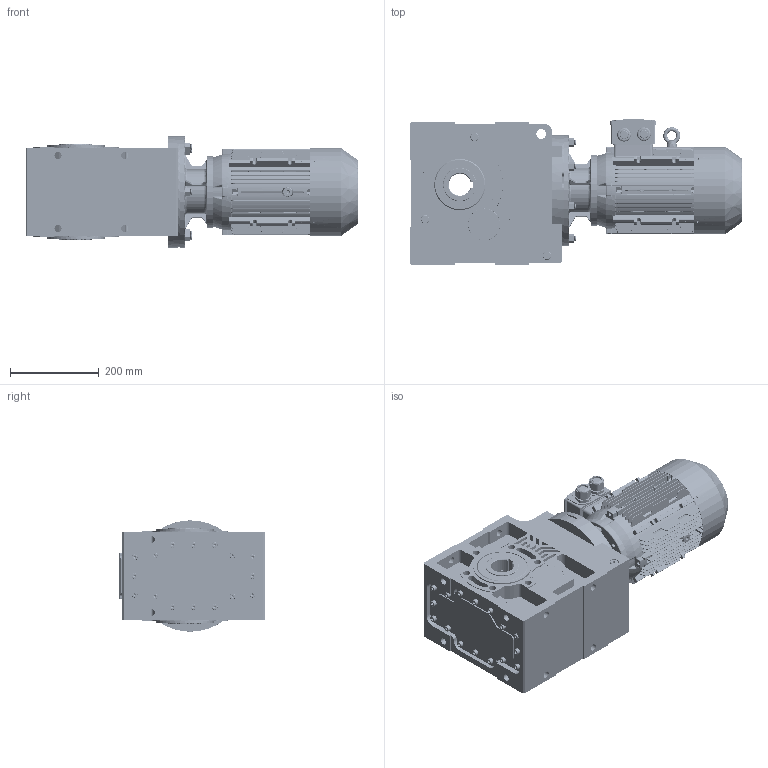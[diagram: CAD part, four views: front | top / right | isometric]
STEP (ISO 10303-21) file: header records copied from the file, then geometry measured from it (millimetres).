
FILE_DESCRIPTION (( 'STEP AP203' ), '1' );
FILE_NAME ('KV_473_0_MX3-100.STEP', '2018-11-21T10:00:37', ( '' ), ( '' ), 'SwSTEP 2.0', 'SolidWorks 2012', '' );
FILE_SCHEMA (( 'CONFIG_CONTROL_DESIGN' ));
Products named in the file (16): IE3 100 B14 flange; IE3 100 shaft cover; plain parallel keys_GB_CONNECTING_PIECE_KEYS_CSK 8X50; IE3 100 fan; IE3 100 terminal box cover; IE3 100 terminal box base; IE3 100 fan cover; IE3 100 casing; IE3 100 Shaft; IE3 100 B3 Shield; eyebolts gb_GB_FASTENER_SCREWS_FRS M8-N; ML58A_Varsayìlan; 43100B14_Varsayìlan; K473_Varsayìlan; KV_473_0_MX3-100; MX3-100L_B14
Assembly tree (16 placements, depth 3):
  KV_473_0_MX3-100
    K473_Varsayìlan
    43100B14_Varsayìlan
    ML58A_Varsayìlan
    MX3-100L_B14
      IE3 100 casing
      IE3 100 B3 Shield
      IE3 100 Shaft
      eyebolts gb_GB_FASTENER_SCREWS_FRS M8-N
      IE3 100 terminal box base
      IE3 100 terminal box cover
      IE3 100 fan
      IE3 100 fan cover
      plain parallel keys_GB_CONNECTING_PIECE_KEYS_CSK 8X50
      IE3 100 shaft cover  x2
      IE3 100 B14 flange
Bounding box: 746.51 x 327 x 250 mm (x, y, z)
Volume: 21024960.6 mm3; surface area: 2051897.5 mm2
Topology: 16 solids, 18 shells, 6534 faces, 16758 edges, 10260 vertices
Faces by surface type: plane 2202, cylinder 1650, bspline 1650, cone 552, torus 368, sphere 112
Entity records: 264708 total; most frequent: CARTESIAN_POINT 118892, ORIENTED_EDGE 32786, DIRECTION 26370, EDGE_CURVE 16393, VERTEX_POINT 10152, AXIS2_PLACEMENT_3D 9620, VECTOR 7130, LINE 7130
